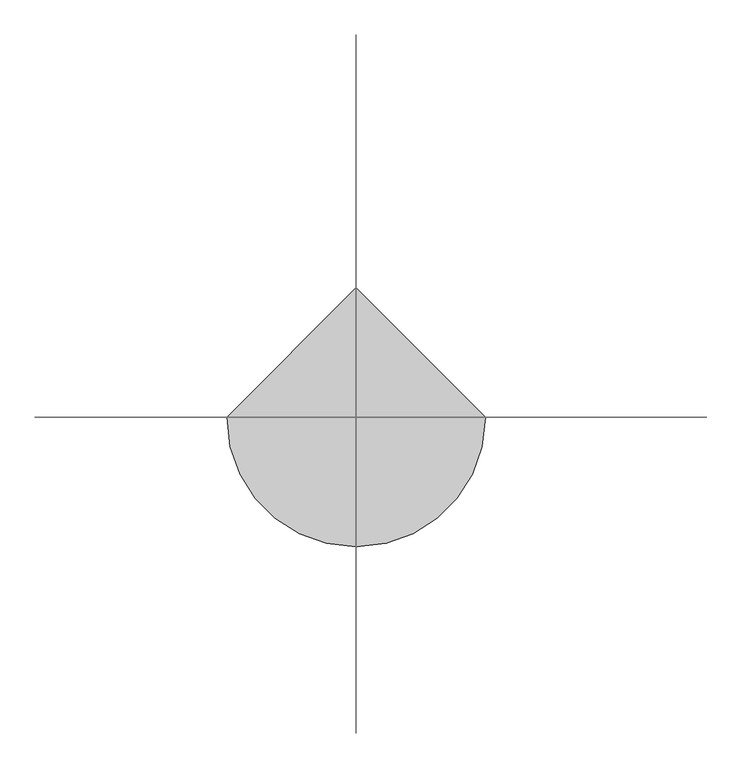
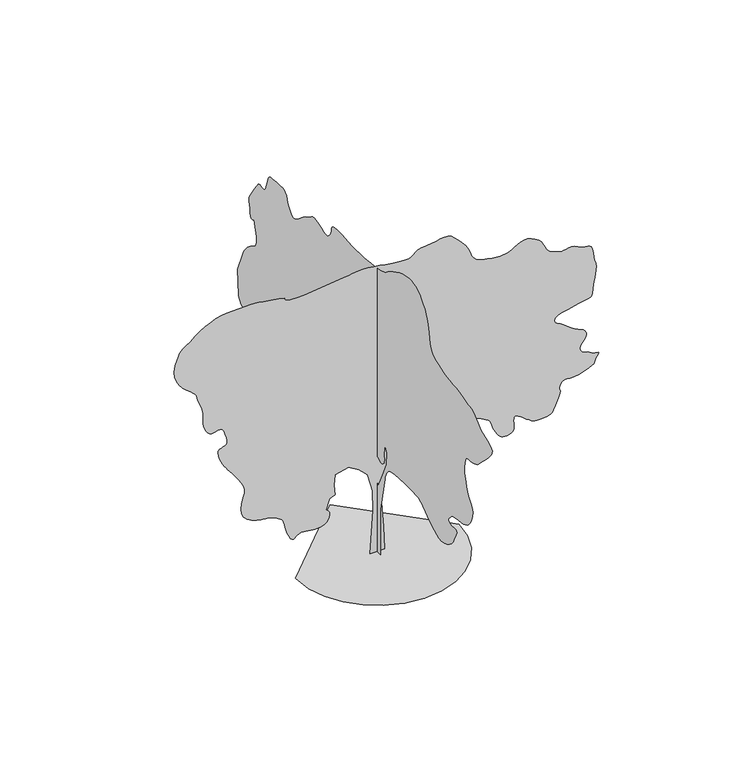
"""IFC4 building model written with IfcOpenShell, lengths in millimetres: geographic element geometry, M_RPC Árvore - Caduca : Macieira - 6,0 metros."""

from ifc_helpers import new_model, si_unit, origin, place, context, project, spatial, triangles, source, transform, mapped, element, save


def geographic_element_31fc5fb8(model_context):
    return source(origin(), model_context, "Body", "Tessellation", [
        triangles([(-6.51e-05, -105.0228319, 0.0074776), (-6.15e-05, 138.9131143, 0.0074703), (-4.84e-05, 99.8833291, 458.6078719), (-3.14e-05, 129.1556067, 1014.7807915), (-1.8e-05, 226.7299288, 1414.8361691), (-8.5e-06, 392.6053236, 1649.0138809), (-1.1e-06, 577.9979682, 1805.1340027), (2.6e-06, 753.6305981, 1844.161417), (3.5e-06, 948.7807503, 1775.8613708), (1.5e-06, 1007.3257959, 1678.2863674), (-4e-06, 890.2357046, 1551.4387321), (-8.4e-06, 929.2657351, 1385.5636826), (-1.44e-05, 1153.685903, 1073.3258371), (-1.47e-05, 1543.9838093, 868.4182137), (-8.5e-06, 2109.9142365, 790.3606236), (7.6e-06, 2451.4244957, 1161.1409712), (2.53e-05, 2802.702182, 1580.7112186), (3.2e-05, 3349.1028419, 1531.9237896), (3.84e-05, 3544.2528488, 1649.0138809), (4.53e-05, 3534.5028625, 1883.1915928), (4.5e-05, 3358.8778267, 1961.2516537), (4.95e-05, 3232.0277206, 2175.9142776), (5.43e-05, 3534.5028625, 2185.6718216), (5.98e-05, 4139.453437, 2068.584201), (6.19e-05, 4208.0283211, 2104.1717091), (6.39e-05, 4273.9283684, 2140.0142887), (6.59e-05, 4334.553447, 2176.3691917), (6.78e-05, 4387.2284294, 2213.4942513), (6.96e-05, 4429.328476, 2251.6417774), (7.12e-05, 4458.2034576, 2291.0693127), (7.26e-05, 4471.2035362, 2332.0343994), (8.79e-05, 4500.4784935, 2829.6522812), (9.79e-05, 4334.6034439, 3249.2275429), (9.86e-05, 4317.5036156, 3282.3275574), (9.94e-05, 4292.2284142, 3321.5527794), (0.0001002, 4260.1033401, 3364.7027618), (0.000101, 4222.5283081, 3409.5526405), (0.0001017, 4180.8532356, 3453.9028404), (0.0001023, 4136.4533295, 3495.527916), (0.0001027, 4090.6782166, 3532.2027122), (0.0001029, 4046.5782921, 3560.9279938), (0.0001029, 4006.7531067, 3582.8278198), (0.000103, 3971.8782005, 3601.8278229), (0.0001031, 3942.6282417, 3621.853054), (0.0001036, 3919.7031876, 3646.8529816), (0.0001043, 3903.7782875, 3680.7029503), (0.0001056, 3895.5282097, 3727.3530098), (0.0001072, 3894.4782738, 3782.2781456), (0.0001089, 3899.0532852, 3838.2282188), (0.0001108, 3908.3283005, 3895.0532387), (0.0001127, 3921.3530869, 3952.5282188), (0.0001147, 3937.2032822, 4010.528167), (0.0001167, 3954.9280724, 4068.8783844), (0.0001187, 3973.5780968, 4127.4033005), (0.0001184, 3998.5533165, 4107.2783661), (0.0001184, 4022.8532867, 4091.9534294), (0.0001185, 4045.7783409, 4086.1782005), (0.0001191, 4066.6532295, 4094.7532585), (0.0001202, 4084.8032845, 4122.4283134), (0.0001219, 4099.5532562, 4174.003363), (0.0001245, 4110.1781891, 4254.2534065), (0.000127, 4120.6784203, 4333.2285278), (0.0001287, 4132.0283089, 4385.4035408), (0.0001299, 4139.1284569, 4422.2036201), (0.0001309, 4136.8033081, 4455.0786484), (0.0001318, 4120.0034615, 4495.478508), (0.0001331, 4083.5533607, 4554.8286644), (0.0001348, 4022.3783157, 4644.5537109), (0.0001367, 3956.5782623, 4741.1289207), (0.0001382, 3906.9780922, 4815.003772), (0.0001392, 3869.5280525, 4868.5789902), (0.0001398, 3840.0781059, 4904.2041412), (0.0001401, 3814.5532104, 4924.3290756), (0.0001399, 3788.8780334, 4931.3042313), (0.0001393, 3758.9281174, 4927.5038818), (0.0001386, 3727.67799, 4918.0288788), (0.0001379, 3700.2029228, 4909.0788437), (0.0001374, 3675.45298, 4904.7291092), (0.0001372, 3652.4029335, 4909.0788437), (0.0001374, 3630.0528442, 4926.2289597), (0.000138, 3607.3527763, 4960.2792068), (0.0001393, 3583.2777924, 5015.329335), (0.0001409, 3562.2279144, 5079.6288986), (0.0001424, 3546.3027237, 5137.7544205), (0.0001437, 3531.0527824, 5188.4042358), (0.0001447, 3512.0527794, 5230.1540131), (0.0001452, 3484.8526955, 5261.6794144), (0.0001452, 3445.0278008, 5281.604361), (0.0001446, 3388.1277855, 5288.5295197), (0.0001436, 3319.3276245, 5291.5793335), (0.0001428, 3248.6275795, 5298.5544891), (0.000142, 3178.9774704, 5306.2040222), (0.0001411, 3113.2274139, 5311.3042923), (0.0001402, 3054.3025223, 5310.5793365), (0.0001392, 3005.1273262, 5300.8293503), (0.000138, 2968.5775223, 5278.7795334), (0.0001369, 2944.7272339, 5253.1543533), (0.0001361, 2929.602285, 5232.6294434), (0.0001354, 2919.9272942, 5214.0044174), (0.0001347, 2912.4774582, 5194.0044754), (0.0001338, 2904.0023941, 5169.4042328), (0.0001326, 2891.2523003, 5136.9288895), (0.000131, 2871.0023735, 5093.3792221), (0.0001292, 2844.6522377, 5045.379245), (0.0001275, 2815.5772682, 5003.1539154), (0.000126, 2783.4271957, 4968.9542587), (0.0001248, 2747.8773308, 4945.0039764), (0.0001238, 2708.5521149, 4933.504097), (0.0001233, 2665.1521477, 4936.7039017), (0.0001232, 2617.3021614, 4956.7788391), (0.0001234, 2569.6771614, 4988.2542435), (0.0001238, 2525.4769524, 5023.3038483), (0.0001243, 2482.1194244, 5060.7288895), (0.0001247, 2437.0595295, 5099.3538574), (0.0001252, 2387.7318718, 5138.0044052), (0.0001254, 2331.5768692, 5175.4294464), (0.0001255, 2266.0343582, 5210.4790512), (0.0001256, 2205.0142456, 5244.5542969), (0.0001259, 2159.0142918, 5277.6040237), (0.0001262, 2120.3541515, 5306.2290207), (0.0001262, 2081.3542065, 5327.0044968), (0.0001258, 2034.3291698, 5336.5044983), (0.0001247, 1971.6040741, 5331.3292328), (0.0001227, 1885.4940685, 5308.0544907), (0.0001205, 1797.391452, 5276.8540695), (0.0001188, 1730.2863911, 5251.9544266), (0.0001175, 1678.8813892, 5236.1042313), (0.0001168, 1637.8888332, 5232.02948), (0.0001166, 1602.0163136, 5242.4794235), (0.0001169, 1565.9737461, 5270.1544785), (0.0001177, 1524.4687214, 5317.8044769), (0.0001188, 1490.9861721, 5373.8045471), (0.0001201, 1475.2561729, 5423.9793915), (0.0001212, 1466.3511932, 5467.3296524), (0.0001221, 1453.3511147, 5502.8292297), (0.0001225, 1425.3286972, 5529.4543488), (0.0001222, 1371.366148, 5546.1794907), (0.000121, 1280.5334656, 5551.979718), (0.0001195, 1182.4759335, 5550.8792038), (0.0001183, 1108.9958982, 5547.8793869), (0.0001174, 1052.4133781, 5543.5296524), (0.0001165, 1005.0483187, 5538.3293884), (0.0001156, 959.2208107, 5532.7797272), (0.0001147, 907.2482563, 5527.4044739), (0.0001136, 841.4482029, 5522.7041794), (0.0001125, 772.3506037, 5519.7043625), (0.0001115, 711.6155754, 5518.9044113), (0.0001107, 653.2705175, 5520.154335), (0.0001099, 591.3404677, 5523.2797256), (0.000109, 519.8504273, 5528.1294296), (0.0001078, 432.8303392, 5534.5046219), (0.0001065, 324.3052774, 5542.2297318), (0.000105, 203.687658, 5552.8796631), (0.0001037, 86.9965703, 5567.6043457), (0.0001026, -21.8426915, 5585.7544006), (0.0001018, -118.9050968, 5606.6292892), (0.0001012, -200.2644113, 5629.5546341), (0.0001011, -261.9952181, 5653.8543137), (0.0001012, -300.1702499, 5678.8295334), (0.0001016, -342.4727732, 5713.0297714), (0.000102, -413.9603428, 5761.2297363), (0.0001023, -506.7854181, 5817.0798157), (0.0001024, -613.0930281, 5874.3298096), (0.0001023, -725.0330704, 5926.6045258), (0.0001019, -834.75319, 5967.6299286), (0.0001011, -934.4057556, 5991.07966), (0.0001, -1022.9033335, 5999.8047089), (9.88e-05, -1104.7484104, 6000.0046967), (9.74e-05, -1180.4459702, 5990.3047073), (9.57e-05, -1250.5110249, 5969.3298248), (9.38e-05, -1315.4560432, 5935.7295502), (9.14e-05, -1375.7936394, 5888.1545471), (8.87e-05, -1432.0336658, 5825.2049011), (8.63e-05, -1478.7161362, 5768.8048553), (8.48e-05, -1512.7687088, 5733.7546692), (8.36e-05, -1538.2837212, 5707.9295013), (8.25e-05, -1559.3638298, 5679.2045105), (8.09e-05, -1580.1012268, 5635.454274), (7.84e-05, -1604.5962433, 5564.5545319), (7.46e-05, -1636.941362, 5454.4042786), (7.05e-05, -1667.1512913, 5330.3292938), (6.7e-05, -1688.656374, 5223.97939), (6.39e-05, -1710.6739254, 5132.8541382), (6.11e-05, -1742.4214062, 5054.3292801), (5.83e-05, -1793.1164223, 4985.8788071), (5.53e-05, -1871.9714928, 4924.9540375), (5.19e-05, -1988.2065491, 4868.9789658), (4.87e-05, -2119.0091755, 4825.5040031), (4.62e-05, -2237.6917568, 4799.6038399), (4.41e-05, -2347.6668755, 4784.9788605), (4.22e-05, -2452.3543808, 4775.3288681), (4.04e-05, -2555.1521759, 4764.2789612), (3.83e-05, -2659.5022018, 4745.5539413), (3.57e-05, -2768.8022163, 4712.8539024), (3.33e-05, -2866.4523605, 4683.5786545), (3.19e-05, -2939.5522591, 4672.2287659), (3.09e-05, -2996.927536, 4668.05373), (2.99e-05, -3047.4773575, 4660.2786232), (2.85e-05, -3100.0776352, 4638.1788094), (2.61e-05, -3163.6025368, 4590.9787834), (2.24e-05, -3246.9276833, 4507.9536186), (1.83e-05, -3354.9527756, 4422.0536293), (1.48e-05, -3474.4277504, 4364.5036537), (1.18e-05, -3586.9278603, 4321.8033531), (9.3e-06, -3673.9780701, 4280.47855), (7e-06, -3717.153051, 4227.0283241), (5e-06, -3698.0280556, 4147.9782074), (2.9e-06, -3598.1780457, 4029.8281517), (1.1e-06, -3473.4528099, 3906.2781349), (-3e-07, -3385.2276718, 3815.6781418), (-1.3e-06, -3323.4776619, 3751.5279877), (-1.9e-06, -3278.1025246, 3707.3530678), (-2.2e-06, -3239.0275841, 3676.6529068), (-2.3e-06, -3196.2275803, 3652.9528999), (-2.1e-06, -3139.5775497, 3629.777861), (-1.7e-06, -3075.1774109, 3613.37799), (-9e-07, -3016.2275208, 3608.6029907), (-2e-07, -2963.4272552, 3606.7278145), (2e-07, -2917.4774437, 3599.0529922), (2e-07, -2879.0024666, 3576.8528938), (-7e-07, -2848.7272797, 3531.452758), (-2.7e-06, -2827.3524216, 3454.1278267), (-5.1e-06, -2815.7522575, 3369.9277336), (-7e-06, -2813.352404, 3305.0276253), (-8.6e-06, -2818.6523712, 3252.4026398), (-1.02e-05, -2830.0772552, 3205.052623), (-1.19e-05, -2846.1274384, 3156.0024193), (-1.39e-05, -2865.2274353, 3098.2524559), (-1.64e-05, -2885.9023361, 3024.8025787), (-1.92e-05, -2914.627327, 2946.6774055), (-2.18e-05, -2954.4525124, 2877.5772629), (-2.43e-05, -2998.5524368, 2814.6273262), (-2.67e-05, -3040.0775185, 2754.9021927), (-2.9e-05, -3072.2275909, 2695.5270378), (-3.11e-05, -3088.152491, 2633.6020386), (-3.3e-05, -3081.0526337, 2566.2020828), (-3.46e-05, -3060.4274391, 2500.277037), (-3.6e-05, -3039.102578, 2443.7194427), (-3.71e-05, -3015.2525803, 2395.18694), (-3.79e-05, -2986.9272743, 2353.3118797), (-3.85e-05, -2952.3273514, 2316.7293743), (-3.88e-05, -2909.5023491, 2284.0717747), (-3.89e-05, -2856.6273788, 2253.9743385), (-3.87e-05, -2791.7272705, 2230.5618141), (-3.8e-05, -2717.452153, 2216.0268002), (-3.71e-05, -2638.7520149, 2206.0967377), (-3.62e-05, -2560.5271385, 2196.5117123), (-3.56e-05, -2487.799601, 2182.9993103), (-3.53e-05, -2425.47201, 2161.2942398), (-3.56e-05, -2378.5043827, 2127.129174), (-3.62e-05, -2345.7043499, 2089.8041267), (-3.68e-05, -2322.8044395, 2060.3341232), (-3.73e-05, -2310.1443111, 2037.0066227), (-3.78e-05, -2308.0692924, 2018.1191128), (-3.84e-05, -2316.9168629, 2001.9616688), (-3.92e-05, -2337.0294434, 1986.8265461), (-4.01e-05, -2368.7469841, 1971.0090523), (-4.1e-05, -2411.2470062, 1962.5040482), (-4.16e-05, -2459.0394379, 1965.0915356), (-4.21e-05, -2505.4770103, 1970.754126), (-4.27e-05, -2543.876992, 1971.4641117), (-4.34e-05, -2567.6019974, 1959.2041042), (-4.44e-05, -2569.9771431, 1925.949012), (-4.59e-05, -2544.3769615, 1863.6765049), (-4.75e-05, -2509.7520401, 1792.5014889), (-4.89e-05, -2484.8695473, 1735.1513557), (-4.99e-05, -2462.7095627, 1687.5312973), (-5.08e-05, -2436.2819607, 1645.5438892), (-5.14e-05, -2398.5894939, 1605.0912712), (-5.19e-05, -2342.631863, 1562.0787804), (-5.22e-05, -2261.4142914, 1512.4087017), (-5.2e-05, -2169.1316975, 1473.3237328), (-5.1e-05, -2083.5066914, 1461.3762062), (-4.95e-05, -2002.8290577, 1471.4462311), (-4.76e-05, -1925.3965748, 1498.4137711), (-4.53e-05, -1849.4990273, 1537.1587898), (-4.28e-05, -1773.4289612, 1582.5612511), (-4.02e-05, -1695.4838642, 1629.498793), (-3.77e-05, -1622.0063725, 1676.8063705), (-3.54e-05, -1558.0838207, 1724.7964645), (-3.31e-05, -1500.136195, 1770.5689613), (-3.11e-05, -1444.578685, 1811.2214218), (-2.93e-05, -1387.8261898, 1843.8489361), (-2.77e-05, -1326.2960793, 1865.5564774), (-2.64e-05, -1256.4010723, 1873.4340488), (-2.5e-05, -1159.1384045, 1874.2890839), (-2.3e-05, -1027.910804, 1875.4840691), (-2.07e-05, -877.7382116, 1874.971455), (-1.86e-05, -723.6380974, 1870.7039829), (-1.67e-05, -580.6329818, 1860.6339581), (-1.55e-05, -463.7428782, 1842.7115055), (-1.52e-05, -387.9878002, 1814.8914013), (-1.57e-05, -343.2127716, 1776.8839828), (-1.66e-05, -308.1652379, 1730.6863667), (-1.77e-05, -281.2252217, 1677.6614056), (-1.92e-05, -260.7727092, 1619.1738419), (-2.08e-05, -245.1829449, 1556.5887085), (-2.26e-05, -232.8366963, 1491.2736546), (-2.44e-05, -222.1121874, 1424.593713), (-3.85e-05, -114.7803395, 897.6907001), (-2.01e-05, -26.9632729, 1297.7460777), (-1.3e-05, -173.3248856, 1609.9838505), (-6.5e-06, -300.1727388, 1892.9489914), (2e-07, -319.6852469, 2127.129174), (4.7e-06, -251.3852008, 2244.2167946), (-4e-07, -222.1119331, 2058.8266571), (-1.7e-06, -228.0859325, 2017.1791992), (-3e-06, -232.2679447, 1976.5565334), (-4.1e-06, -232.865183, 1937.9815624), (-5.1e-06, -228.0859325, 1902.4790783), (-5.9e-06, -216.1379336, 1871.0740185), (-6.4e-06, -195.2293988, 1844.788995), (-6.5e-06, -163.5673779, 1824.6489452), (-6.1e-06, -127.1833524, 1819.4714996), (-5.2e-06, -93.5303284, 1831.0190506), (-4.2e-06, -62.949051, 1849.7389835), (-3.3e-06, -35.7820297, 1866.0664753), (-2.9e-06, -12.3698845, 1870.4490566), (-3.1e-06, 6.9458055, 1853.3239391), (-4.3e-06, 21.8237678, 1805.1340027), (-6.1e-06, 32.3777771, 1741.0688725), (-7.7e-06, 39.3472803, 1682.1263947), (-9.3e-06, 43.330036, 1627.4512436), (-1.08e-05, 44.9230347, 1576.1888203), (-1.22e-05, 44.724037, 1527.4862698), (-1.37e-05, 43.330036, 1480.4911732), (-1.51e-05, 41.3385332, 1434.3511116), (137.391859, 0.0003253, 0.0), (-133.3141101, 0.0003334, 0.0), (-73.1573078, 0.0002372, 832.1731876), (-83.1833128, 0.0002433, 1223.1935062), (-183.4456522, 0.0001982, 1574.1087147), (-333.8377625, 0.0002049, 1724.5014244), (-534.3604428, 0.0002126, 1844.8164642), (-785.015601, 0.0002192, 1784.6589443), (-805.0681561, 0.0002168, 1584.1363003), (-785.015601, 0.0002134, 1393.6386257), (-885.278231, 0.0002156, 1343.5060753), (-955.4607931, 0.0002149, 1153.0084007), (-936.3432827, 0.0002675, 1139.8859459), (-918.5407356, 0.0002668, 1125.3558735), (-903.3707314, 0.0002661, 1108.0234285), (-892.1456898, 0.0002654, 1086.4808481), (-886.1831903, 0.0002648, 1059.3258196), (-886.7981964, 0.0002643, 1025.1533415), (-895.3032005, 0.0002639, 982.5658247), (-913.9532249, 0.0002639, 940.0632591), (-942.5982788, 0.0002642, 906.5057144), (-978.963283, 0.0002649, 881.018244), (-1020.7633478, 0.0002659, 862.7181982), (-1065.71838, 0.0002671, 850.7331739), (-1111.553373, 0.0002683, 844.1856812), (-1155.9834372, 0.0002696, 842.1981571), (-1199.4784567, 0.000271, 844.8881819), (-1243.6759769, 0.0002724, 851.4356747), (-1288.0485592, 0.0002738, 859.5631582), (-1332.0685467, 0.0002752, 866.9856703), (-1375.2135876, 0.0002766, 871.4282043), (-1416.9560978, 0.0002778, 870.610667), (-1456.7686386, 0.0002789, 862.2507122), (-1490.9986713, 0.0002796, 844.3906832), (-1518.2137253, 0.0002801, 821.2681847), (-1541.2187164, 0.0002805, 799.9006662), (-1562.8187061, 0.0002809, 787.3031067), (-1585.8238426, 0.0002817, 790.4881594), (-1613.0387512, 0.0002829, 816.475672), (-1647.2663132, 0.0002313, 872.2782251), (-1679.7413658, 0.0002334, 944.3882858), (-1702.0463997, 0.0002351, 1013.34585), (-1717.508828, 0.0002365, 1077.2133905), (-1729.4639122, 0.0002377, 1134.0684231), (-1741.2438618, 0.0002387, 1181.9784348), (-1756.1814674, 0.0002397, 1219.0134562), (-1777.6064678, 0.0002407, 1243.2460613), (-1804.2939377, 0.0002418, 1262.5659576), (-1833.963929, 0.000243, 1284.8709915), (-1868.368951, 0.0002444, 1308.2261066), (-1909.2639839, 0.000246, 1330.7035137), (-1958.3990662, 0.0002477, 1350.3761501), (-2017.5341194, 0.0002497, 1365.3136105), (-2088.4191822, 0.0002519, 1373.5860706), (-2170.7616852, 0.0002011, 1382.5010788), (-2258.5417923, 0.000204, 1401.9387005), (-2344.9193687, 0.0002071, 1433.8312305), (-2423.054425, 0.0002101, 1480.1036968), (-2486.1046463, 0.0002129, 1542.6862141), (-2527.2271362, 0.0002153, 1623.5087517), (-2539.6019623, 0.0002172, 1724.5014244), (-2528.5270569, 0.0002183, 1822.2489464), (-2508.6771057, 0.0002189, 1897.5490013), (-2487.2420769, 0.0002192, 1958.6416386), (-2471.4293793, 0.0001661, 2013.7690876), (-2468.4170631, 0.0001669, 2071.1791008), (-2485.3994568, 0.0001684, 2139.1117275), (-2529.5769928, 0.000171, 2225.8093426), (-2588.3771828, 0.0001741, 2318.6769299), (-2644.0272743, 0.000177, 2400.3194756), (-2695.8273102, 0.0001796, 2471.7869156), (-2743.0773331, 0.000182, 2534.1270058), (-2785.0523872, 0.0001306, 2588.4271797), (-2821.0522247, 0.0001324, 2635.6772026), (-2850.4021774, 0.0001339, 2676.977298), (-2878.5522034, 0.0001354, 2723.8270546), (-2908.6274025, 0.0001372, 2782.7522369), (-2936.4274498, 0.000139, 2847.4523575), (-2957.7523109, 0.0001406, 2911.6522179), (-2968.352536, 0.0001418, 2969.0024963), (-2964.0525078, 0.0001423, 3013.2024147), (-2940.6524826, 0.000142, 3037.927359), (-2905.0023331, 0.0001411, 3050.052491), (-2869.2021927, 0.0001402, 3062.5526001), (-2836.7274307, 0.0001395, 3078.1775185), (-2811.1022507, 0.000139, 3099.7773628), (-2795.8023125, 0.000139, 3130.1525436), (-2794.3773994, 0.0001396, 3172.1025993), (-2810.3022995, 0.0001409, 3228.4276497), (-2831.7271545, 8.9e-05, 3286.3526024), (-2846.6774048, 9.02e-05, 3332.2027107), (-2858.4522675, 9.1e-05, 3367.3276016), (-2870.4024101, 9.18e-05, 3393.1777679), (-2885.8523392, 9.25e-05, 3411.1278351), (-2908.17743, 9.33e-05, 3422.5777176), (-2940.6524826, 9.44e-05, 3428.9529099), (-2978.7524826, 9.55e-05, 3427.0527351), (-3016.0025345, 9.65e-05, 3417.4277412), (-3052.7023293, 9.74e-05, 3407.1277885), (-3089.2524239, 9.85e-05, 3403.1027435), (-3125.9775078, 9.97e-05, 3412.4277557), (-3163.2025612, 0.0001012, 3442.1026886), (-3201.3275597, 0.0001032, 3499.1276962), (-3229.5025841, 0.0001051, 3569.6277534), (-3241.3777313, 0.0001065, 3637.1529922), (-3243.9525742, 0.0001076, 3704.8529297), (-3244.2275574, 0.0001086, 3775.9029533), (-3249.2525414, 5.65e-05, 3853.4031647), (-3266.0276802, 5.83e-05, 3940.5780762), (-3301.5775452, 6.09e-05, 4040.5533691), (-3337.877655, 6.33e-05, 4130.928376), (-3357.5276184, 6.48e-05, 4192.7283829), (-3368.4028267, 6.58e-05, 4234.1784691), (-3378.4027977, 6.65e-05, 4263.5284218), (-3395.4276306, 6.74e-05, 4289.0033203), (-3427.3277184, 6.88e-05, 4318.8785316), (-3482.0528664, 7.1e-05, 4361.3785538), (-3552.8529053, 2.06e-05, 4417.8785934), (-3623.6529442, 2.37e-05, 4484.3786041), (-3688.3030678, 2.68e-05, 4561.0535751), (-3740.6780685, 2.96e-05, 4648.0787865), (-3774.6530296, 3.21e-05, 4745.6289368), (-3784.0780357, 3.4e-05, 4853.8540169), (-3762.7781731, 3.51e-05, 4972.9790131), (-3729.8781464, -1.77e-05, 5076.7040771), (-3704.502951, -1.74e-05, 5145.8539261), (-3680.7029503, -1.74e-05, 5191.3290573), (-3652.5279259, -1.78e-05, 5224.0043884), (-3614.0029518, -1.85e-05, 5254.7792542), (-3559.1778099, -1.95e-05, 5294.454158), (-3482.0528664, -2.09e-05, 5353.9795944), (-3391.1775993, -2.26e-05, 5424.8793365), (-3298.9027084, -2.44e-05, 5490.3794083), (-3205.0276245, -2.63e-05, 5548.6543396), (-3109.4276459, -2.84e-05, 5598.0042343), (-3011.8774956, -3.07e-05, 5636.6297836), (-2912.2274734, -3.33e-05, 5662.8293472), (-2810.3022995, -3.62e-05, 5674.8047791), (-2339.0719059, -5.01e-05, 5684.8297485), (-2273.3618179, -5.21e-05, 5682.2043274), (-2197.6542297, -5.44e-05, 5674.854776), (-2113.614156, -3.7e-06, 5663.5293045), (-2022.9116982, -6.6e-06, 5649.0546066), (-1927.2115803, -9.7e-06, 5632.2294708), (-1828.1764915, -1.3e-05, 5613.8044327), (-1727.4763882, -1.63e-05, 5594.6044418), (-1724.3188774, -1.66e-05, 5575.4544479), (-1715.1114452, -1.72e-05, 5557.4543839), (-1693.8014088, -1.8e-05, 5541.7297623), (-1654.3413174, -1.94e-05, 5529.4293503), (-1590.6763081, -2.14e-05, 5521.6792419), (-1496.7561687, -2.42e-05, 5519.6293671), (-1366.5335941, -2.81e-05, 5524.4296555), (-604.5454757, -4.94e-05, 5614.6543808), (-529.8304141, -5.15e-05, 5621.554541), (-464.7628741, 1e-07, 5631.7794983), (-403.0278342, -1.6e-06, 5642.554422), (-338.3102729, -3.4e-06, 5651.0294861), (-264.297712, -5.6e-06, 5654.4042801), (-174.6758932, -8.3e-06, 5649.9045547), (-63.1313028, -1.19e-05, 5634.7043198), (53.8502923, -1.57e-05, 5614.4793915), (156.9766284, -1.9e-05, 5596.879303), (248.3524462, -2.19e-05, 5582.1046234), (330.0827591, -2.45e-05, 5570.2797638), (404.2703093, -2.69e-05, 5561.6297104), (473.0203643, -2.9e-05, 5556.304454), (538.4379192, -3.1e-05, 5554.5045639), (593.7429737, -3.25e-05, 5562.8296371), (635.895488, -3.35e-05, 5584.3044891), (672.6080727, -3.41e-05, 5613.6794403), (711.6030762, -3.48e-05, 5645.7048111), (760.5931091, -3.58e-05, 5675.0797623), (827.2981945, -3.75e-05, 5696.5546143), (919.4332684, -4.01e-05, 5704.904686), (1019.3733164, -4.3e-05, 5711.6048584), (1106.3358862, -4.54e-05, 5726.7545151), (1183.3009558, -4.74e-05, 5742.7796997), (1253.2485031, -4.94e-05, 5752.1297104), (1319.1661366, -5.14e-05, 5747.279425), (1384.0286018, -5.37e-05, 5720.6798859), (1450.8211819, -3.2e-06, 5664.7798096), (1514.7787605, -6.1e-06, 5597.4042709), (1569.6162563, -8.6e-06, 5539.5043167), (1616.0337719, -1.07e-05, 5488.254538), (1654.7363514, -1.26e-05, 5440.8795227), (1686.421336, -1.42e-05, 5394.5544434), (1711.7939152, -1.57e-05, 5346.4544724), (1731.5539009, -1.7e-05, 5293.8291962), (1749.3263626, -1.84e-05, 5241.0045135), (1770.606459, -1.97e-05, 5194.1544662), (1798.9013889, -2.12e-05, 5153.0790665), (1837.7189323, 3.06e-05, 5117.6039063), (1890.5690495, 2.85e-05, 5087.6039932), (1960.9566135, 2.61e-05, 5062.8293427), (2052.3917301, 2.3e-05, 5043.1537994), (2147.2741653, 2e-05, 5028.9540848), (2227.0742363, 1.75e-05, 5020.3540283), (2293.8969017, 1.55e-05, 5016.8542419), (2349.8443588, 1.38e-05, 5017.9041779), (2397.0244732, 1.25e-05, 5023.0038666), (2437.5369713, 1.14e-05, 5031.5789246), (2473.4920441, 1.05e-05, 5043.1537994), (2512.0269012, 9.7e-06, 5063.479303), (2558.2519867, 8.7e-06, 5093.9791855), (2611.3522339, 7.6e-06, 5127.6038773), (2670.3771194, 6.3e-06, 5157.4043839), (2734.5272736, 4.7e-06, 5176.304393), (2802.8521729, 2.7e-06, 5177.3293304), (2874.527449, 2e-07, 5153.4540436), (2937.3023964, -2.2e-06, 5120.2293274), (2982.5275429, -3.9e-06, 5095.0541199), (3014.7523201, -5.2e-06, 5073.7292587), (3038.5773193, -6.2e-06, 5052.0788361), (3058.5525536, -7.2e-06, 5025.854274), (3079.2024559, -8.3e-06, 4990.8790833), (3105.1276176, -9.8e-06, 4942.9041046), (3132.7273865, 4.2e-05, 4892.8036743), (3157.7026062, 4.07e-05, 4852.7037964), (3183.5274834, 3.94e-05, 4820.3040298), (3213.7526733, 3.81e-05, 4793.3539307), (3251.8776718, 3.66e-05, 4769.5539299), (3301.4025558, 3.48e-05, 4746.6538742), (3365.8276932, 3.25e-05, 4722.3289055), (3431.1277771, 3.03e-05, 4707.5039383), (3484.3277275, 2.88e-05, 4709.3538254), (3530.502816, 2.76e-05, 4719.9537598), (3574.753022, 2.64e-05, 4731.4539299), (3622.1780342, 2.51e-05, 4735.9289474), (3677.8278351, 2.33e-05, 4725.4787132), (3746.8029854, 2.07e-05, 4692.2537064), (3818.1279922, 1.81e-05, 4658.4537346), (3877.8781242, 1.61e-05, 4644.1287369), (3926.7530479, 1.45e-05, 4638.053817), (3965.453302, 1.32e-05, 4629.003788), (3994.7032608, 1.2e-05, 4605.7287552), (4015.1531754, 6.41e-05, 4557.0288208), (4027.5532906, 6.24e-05, 4471.6785072), (4039.2031609, 6.08e-05, 4384.4785973), (4054.5533867, 5.95e-05, 4327.8035683), (4069.9033218, 5.84e-05, 4286.7284592), (4081.5781906, 5.75e-05, 4246.3533073), (4085.8532204, 5.65e-05, 4191.7784409), (4079.1033417, 5.55e-05, 4108.1033157), (4057.628199, 5.42e-05, 3980.3782631), (4035.5283852, 0.0001063, 3847.1779633), (4024.4781876, 0.0001052, 3752.0279572), (4017.103347, 0.0001045, 3687.578112), (4006.0531494, 0.0001042, 3646.453006), (3983.9533356, 0.0001045, 3621.2777985), (3943.4531914, 0.0001054, 3604.7279366), (3877.1531685, 0.0001072, 3589.3780014), (3783.9280449, 0.0001097, 3571.4279343), (3675.2779907, 0.0001126, 3551.3779953), (3562.7778809, 0.0001156, 3528.3279488), (3457.9778824, 0.0001183, 3501.452845), (3372.4778687, 0.0001204, 3469.8277405), (3317.8527145, 0.0001215, 3432.5776886), (3305.6525871, 0.0001212, 3388.8527412), (3318.4276794, 0.0001203, 3351.9776665), (3332.9526649, 0.0001195, 3330.9027901), (3352.2276512, 0.0001188, 3318.0777008), (3379.2027489, 0.0001178, 3305.9525688), (3416.8777748, 0.0001164, 3286.9775642), (3468.2528366, 0.0001143, 3253.627565), (3536.2527557, 0.0001115, 3198.3524506), (3611.5028137, 0.0001084, 3139.7525391), (3681.477903, 0.0001057, 3097.8024834), (3744.6281181, 0.0001033, 3067.0776146), (3799.3529755, 0.0001547, 3042.1273933), (3844.053154, 0.000153, 3017.5524399), (3877.2031654, 0.0001516, 2987.877507), (3897.2031075, 0.0001504, 2947.702343), (3897.9280632, 0.0001497, 2900.4773186), (3879.7280113, 0.0001495, 2853.6272713), (3850.6530418, 0.0001497, 2807.4771812), (3818.7529541, 0.00015, 2762.3773178), (3792.1281258, 0.0001501, 2718.6770782), (3778.8280655, 0.0001499, 2676.7270226), (3786.9281525, 0.0001491, 2636.8771294), (3809.6282204, 0.0001479, 2605.4770111), (3834.8031372, 0.0001469, 2585.8520462), (3862.4281952, 0.0001459, 2573.7522034), (3892.5031036, 0.0001448, 2564.9771576), (3925.0281532, 0.0001437, 2555.3271652), (3960.0283424, 0.0001425, 2540.6021919), (3997.4780914, 0.000141, 2516.5769142), (4036.1783455, 0.0001395, 2494.674472), (4072.603157, 0.0001383, 2485.0596519), (4103.2283226, 0.0001373, 2481.5796318), (4124.5534744, 0.0001366, 2478.1019371), (4133.1032433, 0.0001362, 2468.4845009), (4125.3284271, 0.0001895, 2446.5919418), (4097.7283676, 0.0001897, 2406.2819023), (4070.2033035, 0.0001899, 2361.9969601), (4057.9281807, 0.0001898, 2329.461882), (4050.3783508, 0.0001896, 2304.4693668), (4037.0532921, 0.0001897, 2282.8093517), (4007.4033577, 0.0001903, 2260.27439), (3950.9283165, 0.0001915, 2232.649332), (3857.1032295, 0.0001938, 2195.731818), (3751.1030136, 0.0001965, 2165.9741867), (3663.5278358, 0.000199, 2156.5616798), (3591.9278458, 0.0002011, 2158.3742146), (3533.8029053, 0.0002029, 2162.291708), (3486.7528702, 0.0002043, 2159.1942226), (3448.2778931, 0.0002051, 2139.9592049), (3415.9528313, 0.0002054, 2095.4691879), (3396.9028313, 0.0002053, 2048.9641777), (3394.8526657, 0.000205, 2022.9766651), (3402.2777939, 0.0002045, 2007.3391022), (3411.6278046, 0.000204, 1991.8766739), (3415.3778664, 0.0002035, 1966.4166), (3405.9528603, 0.0002031, 1920.7865364), (3375.8526627, 0.0002029, 1844.8164642), (3339.8028282, 0.0002027, 1759.2289558), (3313.4026955, 0.0002024, 1690.476321), (3290.3526489, 0.0002023, 1636.9838013), (3264.3024948, 0.0002025, 1597.1712605), (3228.9526176, 0.0002032, 1569.4613239), (3178.0025299, 0.0002044, 1552.2737103), (3105.1276176, 0.0002065, 1544.0311901), (3032.1274223, 0.0002086, 1540.6111954), (2980.1523972, 0.0002101, 1539.996262), (2942.0273987, 0.0002113, 1543.7687061), (2910.5772835, 0.0002124, 1553.5012516), (2878.6022003, 0.0002136, 1570.7762146), (2838.902298, 0.0002152, 1597.1712605), (2784.3021423, 0.0002174, 1634.2663799), (2725.2272598, 0.0002198, 1675.6263554), (2676.327047, 0.0002218, 1712.2539162), (2636.7271385, 0.0002234, 1741.8638821), (2605.5270081, 0.0002246, 1762.1813919), (2581.8769981, 0.0002254, 1770.9214108), (2564.9021622, 0.0002259, 1765.8039906), (2553.7019737, 0.0002259, 1744.5539795), (2547.3770691, 0.0002257, 1717.2514309), (2544.9269279, 0.0002254, 1694.3364052), (2545.2771973, 0.0002251, 1674.0488354), (2547.3770691, 0.0002247, 1654.6388283), (2550.2021873, 0.0002244, 1634.3538746), (2552.6520378, 0.0002239, 1611.4362328), (2553.7019737, 0.0002235, 1584.1363003), (2552.2770607, 0.0002231, 1554.2312943), (2547.1520828, 0.0002228, 1525.3811657), (2537.1271133, 0.0002227, 1498.6361412), (2520.9519379, 0.0002229, 1475.0461567), (2497.4295364, 0.0002233, 1455.666235), (2465.3044624, 0.000224, 1441.5461666), (2423.3594936, 0.0002251, 1433.7435905), (2380.6244568, 0.0002264, 1432.0761051), (2345.4293667, 0.0002275, 1436.3736626), (2315.4968914, 0.0002286, 1447.6861988), (2288.5467922, 0.0002297, 1467.0661205), (2262.2967957, 0.0002309, 1495.5662704), (2234.4692791, 0.0002323, 1534.2387646), (2202.7842945, 0.000234, 1584.1363003), (2173.4642818, 0.0002356, 1638.6213467), (2152.3892601, 0.0001837, 1689.7763638), (2136.7516972, 0.0001848, 1736.7214634), (2123.7442062, 0.0001858, 1778.5789375), (2110.561726, 0.0001868, 1814.4739849), (2094.3967243, 0.0001877, 1843.5290428), (2072.4441399, 0.0001886, 1864.8690193), (2041.9866966, 0.0001898, 1883.516573), (2003.1091278, 0.0001913, 1904.796524), (1957.2165802, 0.000193, 1928.2690739), (1905.7115845, 0.0001949, 1953.4966038), (1849.996526, 0.000197, 1980.0365536), (1791.4764061, 0.0001991, 2007.4566822), (1731.5539009, 0.0002013, 2035.3141388), (1390.663662, 0.0002115, 2035.3141388), (1200.1659874, 0.0002139, 1814.7364689), (1195.6959841, 0.0002136, 1784.6589443), (1190.1709579, 0.0002133, 1754.578949), (1182.5409731, 0.0002131, 1724.5014244), (1171.7559483, 0.0002129, 1694.4238998), (1156.7584625, 0.0002129, 1664.3439045), (1136.5034489, 0.0002131, 1634.2663799), (1109.9308702, 0.0002134, 1604.1888554), (1086.2834038, 0.0002138, 1578.7562508), (1071.7558748, 0.0002139, 1561.5687824), (1060.7358353, 0.0002141, 1551.0463142), (1047.610837, 0.0002144, 1545.6087101), (1026.7683592, 0.000215, 1543.6787407), (992.5982792, 0.000216, 1543.6787407), (939.4857508, 0.0002176, 1544.0311901), (873.0156801, 0.0002196, 1546.8661915), (804.2656614, 0.0002218, 1554.4362236), (735.8656214, 0.000224, 1565.3387558), (670.4455593, 0.0002262, 1578.1712574), (610.6404888, 0.0002281, 1591.5313431), (559.0754677, 0.0002299, 1604.0112499), (518.3879076, 0.0002312, 1614.2138248), (483.4279049, 0.0002324, 1624.5613037), (447.4153502, 0.0002337, 1638.0662933), (410.5253417, 0.000235, 1654.201355), (372.9353033, 0.0002364, 1672.4413754), (334.8177535, 0.0001845, 1692.2589157), (296.3502432, 0.0001859, 1713.1313335), (257.7052002, 0.0001874, 1734.5288647), (77.2350658, 0.0002405, 1353.5336609), (67.2090562, 0.0002365, 1062.7733562), (117.339849, 0.0002792, 451.1778749), (-1522.7162121, 1.1e-06, 0.0098235), (-1482.4612564, -348.9052657, 0.0098339), (-1367.8136032, -669.3205553, 0.0098435), (-1187.9534334, -952.0632534, 0.0098519), (-952.0632534, -1187.9534334, 0.0098589), (-669.3205553, -1367.8136032, 0.0098643), (-348.9052657, -1482.4612564, 0.0098677), (6.66e-05, -1522.7162121, 0.0098689), (348.9052657, -1482.4612564, 0.0098677), (669.3205553, -1367.8136032, 0.0098643), (952.0632534, -1187.9534334, 0.0098589), (1187.9534334, -952.0632534, 0.0098519), (1367.8136032, -669.3205553, 0.0098435), (1482.4612564, -348.9052657, 0.0098339), (1522.7162121, 0.0001238, 0.0098235), (-0.0001997, 1522.7162121, 0.0097782)], [[300, 1, 301], [299, 300, 301], [299, 301, 302], [298, 299, 302], [297, 298, 302], [296, 297, 302], [296, 302, 303], [295, 296, 303], [294, 295, 303], [293, 294, 303], [292, 293, 303], [1, 2, 3], [301, 1, 3], [301, 3, 4], [301, 4, 5], [327, 301, 5], [326, 327, 5], [326, 5, 6], [325, 326, 6], [324, 325, 6], [323, 324, 6], [322, 323, 6], [321, 322, 6], [320, 321, 6], [19, 20, 21], [18, 19, 21], [17, 18, 21], [17, 21, 22], [320, 6, 7], [319, 320, 7], [291, 292, 303], [291, 303, 304], [290, 291, 304], [261, 262, 263], [260, 261, 263], [260, 263, 264], [259, 260, 264], [259, 264, 265], [258, 259, 265], [10, 11, 12], [14, 15, 16], [258, 265, 266], [257, 258, 266], [205, 206, 207], [204, 205, 207], [204, 207, 208], [203, 204, 208], [203, 208, 209], [202, 203, 209], [202, 209, 210], [257, 266, 267], [10, 12, 13], [257, 267, 268], [257, 268, 269], [256, 257, 269], [256, 269, 270], [256, 270, 271], [255, 256, 271], [255, 271, 272], [255, 272, 273], [255, 273, 274], [255, 274, 275], [255, 275, 276], [255, 276, 277], [254, 255, 277], [254, 277, 278], [254, 278, 279], [254, 279, 280], [253, 254, 280], [253, 280, 281], [253, 281, 282], [289, 290, 304], [10, 13, 14], [10, 14, 16], [10, 16, 17], [10, 17, 22], [9, 10, 22], [201, 202, 210], [201, 210, 211], [201, 211, 212], [201, 212, 213], [201, 213, 214], [201, 214, 215], [201, 215, 216], [201, 216, 217], [201, 217, 218], [201, 218, 219], [200, 201, 219], [199, 200, 219], [198, 199, 219], [197, 198, 219], [196, 197, 219], [195, 196, 219], [194, 195, 219], [194, 219, 220], [193, 194, 220], [192, 193, 220], [191, 192, 220], [190, 191, 220], [189, 190, 220], [189, 220, 221], [188, 189, 221], [252, 253, 282], [252, 282, 283], [188, 221, 222], [187, 188, 222], [251, 252, 283], [187, 222, 223], [23, 24, 25], [318, 319, 7], [56, 57, 58], [56, 58, 59], [55, 56, 59], [55, 59, 60], [54, 55, 60], [54, 60, 61], [54, 61, 62], [23, 25, 26], [186, 187, 223], [23, 26, 27], [23, 27, 28], [23, 28, 29], [23, 29, 30], [23, 30, 31], [23, 31, 32], [23, 32, 33], [23, 33, 34], [23, 34, 35], [23, 35, 36], [23, 36, 37], [23, 37, 38], [23, 38, 39], [23, 39, 40], [23, 40, 41], [23, 41, 42], [23, 42, 43], [23, 43, 44], [22, 23, 44], [22, 44, 45], [9, 22, 45], [9, 45, 46], [9, 46, 47], [9, 47, 48], [8, 9, 48], [8, 48, 49], [8, 49, 50], [8, 50, 51], [8, 51, 52], [8, 52, 53], [8, 53, 54], [250, 251, 283], [250, 283, 284], [288, 289, 304], [288, 304, 305], [186, 223, 224], [287, 288, 305], [313, 314, 315], [312, 313, 315], [311, 312, 315], [310, 311, 315], [310, 315, 316], [309, 310, 316], [308, 309, 316], [308, 316, 317], [307, 308, 317], [306, 307, 317], [306, 317, 318], [305, 306, 318], [305, 318, 7], [305, 7, 8], [305, 8, 54], [305, 54, 62], [305, 62, 63], [305, 63, 64], [305, 64, 65], [305, 65, 66], [305, 66, 67], [305, 67, 68], [305, 68, 69], [305, 69, 70], [305, 70, 71], [305, 71, 72], [305, 72, 73], [305, 73, 74], [305, 74, 75], [305, 75, 76], [305, 76, 77], [305, 77, 78], [305, 78, 79], [305, 79, 80], [305, 80, 81], [305, 81, 82], [305, 82, 83], [305, 83, 84], [305, 84, 85], [305, 85, 86], [305, 86, 87], [305, 87, 88], [305, 88, 89], [305, 89, 90], [305, 90, 91], [305, 91, 92], [134, 135, 136], [134, 136, 137], [133, 134, 137], [133, 137, 138], [132, 133, 138], [132, 138, 139], [132, 139, 140], [131, 132, 140], [131, 140, 141], [131, 141, 142], [131, 142, 143], [130, 131, 143], [130, 143, 144], [130, 144, 145], [286, 287, 305], [186, 224, 225], [185, 186, 225], [249, 250, 284], [130, 145, 146], [285, 286, 305], [249, 284, 285], [249, 285, 305], [248, 249, 305], [234, 235, 236], [233, 234, 236], [233, 236, 237], [232, 233, 237], [232, 237, 238], [232, 238, 239], [232, 239, 240], [232, 240, 241], [232, 241, 242], [232, 242, 243], [232, 243, 244], [232, 244, 245], [231, 232, 245], [231, 245, 246], [231, 246, 247], [230, 231, 247], [230, 247, 248], [230, 248, 305], [229, 230, 305], [228, 229, 305], [227, 228, 305], [226, 227, 305], [225, 226, 305], [185, 225, 305], [184, 185, 305], [183, 184, 305], [182, 183, 305], [181, 182, 305], [180, 181, 305], [179, 180, 305], [178, 179, 305], [177, 178, 305], [176, 177, 305], [175, 176, 305], [174, 175, 305], [173, 174, 305], [172, 173, 305], [171, 172, 305], [170, 171, 305], [169, 170, 305], [168, 169, 305], [167, 168, 305], [166, 167, 305], [165, 166, 305], [164, 165, 305], [163, 164, 305], [162, 163, 305], [161, 162, 305], [160, 161, 305], [159, 160, 305], [158, 159, 305], [157, 158, 305], [156, 157, 305], [155, 156, 305], [154, 155, 305], [153, 154, 305], [152, 153, 305], [151, 152, 305], [150, 151, 305], [149, 150, 305], [148, 149, 305], [147, 148, 305], [146, 147, 305], [130, 146, 305], [129, 130, 305], [128, 129, 305], [127, 128, 305], [126, 127, 305], [125, 126, 305], [124, 125, 305], [123, 124, 305], [122, 123, 305], [121, 122, 305], [120, 121, 305], [119, 120, 305], [118, 119, 305], [117, 118, 305], [116, 117, 305], [115, 116, 305], [114, 115, 305], [113, 114, 305], [112, 113, 305], [111, 112, 305], [110, 111, 305], [109, 110, 305], [108, 109, 305], [107, 108, 305], [94, 95, 96], [94, 96, 97], [93, 94, 97], [93, 97, 98], [93, 98, 99], [93, 99, 100], [93, 100, 101], [92, 93, 101], [92, 101, 102], [92, 102, 103], [92, 103, 104], [92, 104, 105], [106, 107, 305], [106, 305, 92], [106, 92, 105], [328, 329, 330], [731, 328, 330], [730, 731, 330], [730, 330, 331], [729, 730, 331], [729, 331, 332], [728, 729, 332], [472, 473, 474], [336, 337, 338], [728, 332, 333], [618, 619, 620], [617, 618, 620], [617, 620, 621], [616, 617, 621], [615, 616, 621], [615, 621, 622], [614, 615, 622], [614, 622, 623], [472, 474, 475], [613, 614, 623], [612, 613, 623], [612, 623, 624], [612, 624, 625], [612, 625, 626], [612, 626, 627], [612, 627, 628], [611, 612, 628], [610, 611, 628], [610, 628, 629], [609, 610, 629], [609, 629, 630], [608, 609, 630], [608, 630, 631], [608, 631, 632], [607, 608, 632], [607, 632, 633], [606, 607, 633], [363, 364, 365], [363, 365, 366], [362, 363, 366], [362, 366, 367], [361, 362, 367], [361, 367, 368], [360, 361, 368], [360, 368, 369], [360, 369, 370], [359, 360, 370], [359, 370, 371], [358, 359, 371], [358, 371, 372], [407, 408, 409], [407, 409, 410], [406, 407, 410], [406, 410, 411], [405, 406, 411], [405, 411, 412], [404, 405, 412], [403, 404, 412], [403, 412, 413], [402, 403, 413], [401, 402, 413], [400, 401, 413], [399, 400, 413], [357, 358, 372], [606, 633, 634], [399, 413, 414], [398, 399, 414], [728, 333, 334], [357, 372, 373], [356, 357, 373], [562, 563, 564], [561, 562, 564], [561, 564, 565], [560, 561, 565], [559, 560, 565], [559, 565, 566], [397, 398, 414], [355, 356, 373], [354, 355, 373], [353, 354, 373], [352, 353, 373], [351, 352, 373], [350, 351, 373], [349, 350, 373], [348, 349, 373], [347, 348, 373], [346, 347, 373], [345, 346, 373], [344, 345, 373], [343, 344, 373], [342, 343, 373], [341, 342, 373], [340, 341, 373], [339, 340, 373], [338, 339, 373], [336, 338, 373], [336, 373, 374], [335, 336, 374], [335, 374, 375], [335, 375, 376], [335, 376, 377], [335, 377, 378], [335, 378, 379], [335, 379, 380], [576, 577, 578], [575, 576, 578], [575, 578, 579], [574, 575, 579], [574, 579, 580], [573, 574, 580], [573, 580, 581], [572, 573, 581], [572, 581, 582], [571, 572, 582], [570, 571, 582], [569, 570, 582], [568, 569, 582], [567, 568, 582], [566, 567, 582], [559, 566, 582], [558, 559, 582], [557, 558, 582], [556, 557, 582], [555, 556, 582], [554, 555, 582], [553, 554, 582], [552, 553, 582], [552, 582, 583], [551, 552, 583], [551, 583, 584], [550, 551, 584], [549, 550, 584], [549, 584, 585], [548, 549, 585], [547, 548, 585], [546, 547, 585], [599, 600, 601], [598, 599, 601], [598, 601, 602], [597, 598, 602], [597, 602, 603], [596, 597, 603], [596, 603, 604], [595, 596, 604], [595, 604, 605], [594, 595, 605], [594, 605, 606], [594, 606, 634], [593, 594, 634], [592, 593, 634], [591, 592, 634], [590, 591, 634], [589, 590, 634], [588, 589, 634], [588, 634, 635], [587, 588, 635], [587, 635, 636], [545, 546, 585], [335, 380, 381], [427, 428, 429], [426, 427, 429], [426, 429, 430], [425, 426, 430], [425, 430, 431], [424, 425, 431], [424, 431, 432], [424, 432, 433], [423, 424, 433], [423, 433, 434], [422, 423, 434], [422, 434, 435], [422, 435, 436], [421, 422, 436], [335, 381, 382], [335, 382, 383], [335, 383, 384], [335, 384, 385], [335, 385, 386], [335, 386, 387], [335, 387, 388], [335, 388, 389], [335, 389, 390], [335, 390, 391], [335, 391, 392], [335, 392, 393], [335, 393, 394], [335, 394, 395], [335, 395, 396], [335, 396, 397], [335, 397, 414], [335, 414, 415], [334, 335, 415], [334, 415, 416], [334, 416, 417], [334, 417, 418], [334, 418, 419], [334, 419, 420], [728, 334, 420], [638, 639, 640], [638, 640, 641], [638, 641, 642], [637, 638, 642], [545, 585, 586], [544, 545, 586], [728, 420, 421], [728, 421, 436], [728, 436, 437], [728, 437, 438], [728, 438, 439], [728, 439, 440], [728, 440, 441], [728, 441, 442], [709, 710, 711], [709, 711, 712], [708, 709, 712], [708, 712, 713], [707, 708, 713], [707, 713, 714], [706, 707, 714], [705, 706, 714], [704, 705, 714], [703, 704, 714], [702, 703, 714], [702, 714, 715], [701, 702, 715], [700, 701, 715], [700, 715, 716], [700, 716, 717], [700, 717, 718], [700, 718, 719], [700, 719, 720], [700, 720, 721], [700, 721, 722], [700, 722, 723], [700, 723, 724], [699, 700, 724], [699, 724, 725], [699, 725, 726], [699, 726, 727], [699, 727, 728], [699, 728, 442], [698, 699, 442], [543, 544, 586], [542, 543, 586], [541, 542, 586], [540, 541, 586], [539, 540, 586], [538, 539, 586], [537, 538, 586], [536, 537, 586], [535, 536, 586], [534, 535, 586], [533, 534, 586], [532, 533, 586], [531, 532, 586], [530, 531, 586], [529, 530, 586], [528, 529, 586], [527, 528, 586], [526, 527, 586], [525, 526, 586], [524, 525, 586], [523, 524, 586], [522, 523, 586], [521, 522, 586], [521, 586, 587], [521, 587, 636], [520, 521, 636], [520, 636, 637], [520, 637, 642], [520, 642, 643], [520, 643, 644], [520, 644, 645], [520, 645, 646], [520, 646, 647], [520, 647, 648], [520, 648, 649], [520, 649, 650], [520, 650, 651], [520, 651, 652], [520, 652, 653], [520, 653, 654], [520, 654, 655], [520, 655, 656], [520, 656, 657], [520, 657, 658], [520, 658, 659], [520, 659, 660], [520, 660, 661], [520, 661, 662], [520, 662, 663], [519, 520, 663], [519, 663, 664], [518, 519, 664], [698, 442, 443], [518, 664, 665], [506, 507, 508], [506, 508, 509], [505, 506, 509], [505, 509, 510], [504, 505, 510], [504, 510, 511], [503, 504, 511], [503, 511, 512], [503, 512, 513], [503, 513, 514], [503, 514, 515], [503, 515, 516], [503, 516, 517], [502, 503, 517], [502, 517, 518], [502, 518, 665], [501, 502, 665], [500, 501, 665], [499, 500, 665], [498, 499, 665], [497, 498, 665], [496, 497, 665], [495, 496, 665], [494, 495, 665], [493, 494, 665], [492, 493, 665], [491, 492, 665], [490, 491, 665], [489, 490, 665], [488, 489, 665], [487, 488, 665], [486, 487, 665], [485, 486, 665], [484, 485, 665], [483, 484, 665], [482, 483, 665], [481, 482, 665], [480, 481, 665], [479, 480, 665], [479, 665, 666], [478, 479, 666], [478, 666, 667], [478, 667, 668], [478, 668, 669], [478, 669, 670], [478, 670, 671], [478, 671, 672], [478, 672, 673], [478, 673, 674], [478, 674, 675], [477, 478, 675], [476, 477, 675], [471, 472, 475], [471, 475, 476], [449, 450, 451], [448, 449, 451], [447, 448, 451], [446, 447, 451], [446, 451, 452], [445, 446, 452], [444, 445, 452], [444, 452, 453], [444, 453, 454], [444, 454, 455], [444, 455, 456], [444, 456, 457], [444, 457, 458], [443, 444, 458], [698, 443, 458], [698, 458, 459], [698, 459, 460], [698, 460, 461], [698, 461, 462], [698, 462, 463], [698, 463, 464], [698, 464, 465], [698, 465, 466], [698, 466, 467], [698, 467, 468], [698, 468, 469], [698, 469, 470], [698, 470, 471], [698, 471, 476], [697, 698, 476], [696, 697, 476], [695, 696, 476], [694, 695, 476], [693, 694, 476], [692, 693, 476], [679, 680, 681], [678, 679, 681], [678, 681, 682], [677, 678, 682], [677, 682, 683], [676, 677, 683], [675, 676, 683], [675, 683, 684], [675, 684, 685], [675, 685, 686], [675, 686, 687], [675, 687, 688], [675, 688, 689], [675, 689, 690], [476, 675, 690], [476, 690, 691], [692, 476, 691], [746, 747, 732], [745, 746, 732], [745, 732, 733], [744, 745, 733], [744, 733, 734], [744, 734, 735], [743, 744, 735], [742, 743, 735], [742, 735, 736], [742, 736, 737], [742, 737, 738], [742, 738, 739], [742, 739, 740], [742, 740, 741]], closed=False),
    ])


if __name__ == "__main__":
    model = new_model("IFC4")
    model_context = context("Model", 3, world=origin())
    ifc_project = project(units=[si_unit("LENGTHUNIT", "METRE", prefix="MILLI")], contexts=[model_context])
    site = spatial("IfcSite", under=ifc_project)
    building = spatial("IfcBuilding", under=site)
    placement = place(None, origin())
    geographic_element_shape = geographic_element_31fc5fb8(model_context)
    element("IfcGeographicElement", 1, ObjectType="M_RPC Árvore - Caduca : Macieira - 6,0 metros", at=placement, inside=building, context=model_context, shape_type="MappedRepresentation", body=[
        mapped(geographic_element_shape, transform((0.0, 0.0, 0.0), x_axis=(1.0, 0.0, 0.0), y_axis=(0.0, 1.0, 0.0), z_axis=(0.0, 0.0, 1.0))),
    ])
    save(model, "model.ifc")
